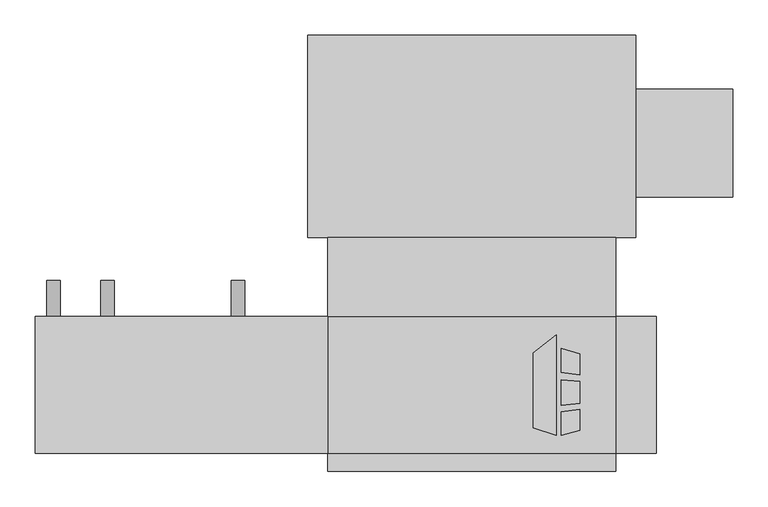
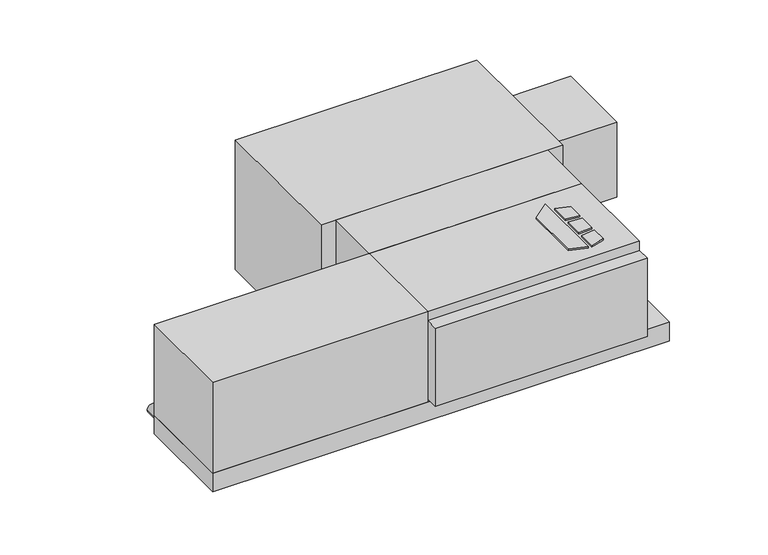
"""IFC4 building model written with IfcOpenShell, lengths in millimetres: proxy geometry, Concealed_Horizontal_Fan_Coil_Unit_With_Plenum_-_CPF_-_IEC_-_4-Pipe_LH : Size 02 - 115v/60Hz/1Ph - 4/1 Coil."""

from ifc_helpers import new_model, si_unit, point, frame, frame_2d, origin, origin_with_axes, place, context, project, spatial, polyline, circle_curve, trimmed, segment, composite_curve, outline, extrude, source, transform, mapped, element, save


def mechanical_equipment_88970b4e(model_context):
    return source(origin(), model_context, "Body", "SweptSolid", [
        extrude(outline(polyline([(239.4019761, -193.0453476), (271.9602728, -167.6080184), (271.9602728, -309.5625), (239.4019761, -299.3429201), (239.4019761, -193.0453476)])), origin_with_axes(), (0.0, 0.0, 1.0), 3.175),
        extrude(outline(polyline([(278.7186058, -220.917352), (278.7186058, -186.4374379), (304.8, -194.6240115), (304.8, -224.1197446), (278.7186058, -220.917352)])), origin_with_axes(), (0.0, 0.0, 1.0), 3.175),
        extrude(outline(polyline([(304.8, -302.5740115), (278.7186058, -309.5625), (278.7186058, -276.3411996), (304.8, -272.7993564), (304.8, -302.5740115)])), origin_with_axes(), (0.0, 0.0, 1.0), 3.175),
        extrude(outline(polyline([(304.8, -233.2013277), (304.8, -264.451483), (278.7186058, -267.192748), (278.7186058, -231.3350378), (304.8, -233.2013277)])), origin_with_axes(), (0.0, 0.0, 1.0), 3.175),
        extrude(outline(polyline([(-50.8, -30.1625), (355.6, -30.1625), (355.6, -141.2875), (-50.8, -141.2875), (-50.8, -30.1625)])), frame((0.0, 0.0, -184.15), z_axis=(0.0, 0.0, 1.0), x_axis=(1.0, 0.0, 0.0)), (0.0, 0.0, 1.0), 184.15),
        extrude(outline(polyline([(-463.55, -334.9625), (-463.55, -141.2875), (-50.8, -141.2875), (-50.8, -334.9625), (-463.55, -334.9625)])), frame((0.0, 0.0, -184.15), z_axis=(0.0, 0.0, 1.0), x_axis=(1.0, 0.0, 0.0)), (0.0, 0.0, 1.0), 184.15),
        extrude(outline(polyline([(412.75, -141.2875), (412.75, -334.9625), (-463.55, -334.9625), (-463.55, -141.2875), (412.75, -141.2875)])), frame((0.0, 0.0, -222.25), z_axis=(0.0, 0.0, 1.0), x_axis=(1.0, 0.0, 0.0)), (0.0, 0.0, 1.0), 38.1),
        extrude(outline(composite_curve([segment(trimmed(circle_curve(frame_2d((-158.75, -361.95)), 9.525), [point((-158.75, -352.425))], [point((-158.75, -371.475))], False, "CARTESIAN"), True, "CONTINUOUS"), segment(trimmed(circle_curve(frame_2d((-158.75, -361.95)), 9.525), [point((-158.75, -371.475))], [point((-158.75, -352.425))], False, "CARTESIAN"), True, "CONTINUOUS")], self_intersect=False)), frame((0.0, -141.2875, 0.0), z_axis=(0.0, 1.0, 0.0), x_axis=(0.0, 0.0, 1.0)), (0.0, 0.0, 1.0), 50.8),
        extrude(outline(composite_curve([segment(trimmed(circle_curve(frame_2d((-69.85, -361.95)), 9.525), [point((-69.85, -352.425))], [point((-69.85, -371.475))], False, "CARTESIAN"), True, "CONTINUOUS"), segment(trimmed(circle_curve(frame_2d((-69.85, -361.95)), 9.525), [point((-69.85, -371.475))], [point((-69.85, -352.425))], False, "CARTESIAN"), True, "CONTINUOUS")], self_intersect=False)), frame((0.0, -141.2875, 0.0), z_axis=(0.0, 1.0, 0.0), x_axis=(0.0, 0.0, 1.0)), (0.0, 0.0, 1.0), 50.8),
        extrude(outline(composite_curve([segment(trimmed(circle_curve(frame_2d((-69.85, -177.8)), 9.525), [point((-69.85, -168.275))], [point((-69.85, -187.325))], False, "CARTESIAN"), True, "CONTINUOUS"), segment(trimmed(circle_curve(frame_2d((-69.85, -177.8)), 9.525), [point((-69.85, -187.325))], [point((-69.85, -168.275))], False, "CARTESIAN"), True, "CONTINUOUS")], self_intersect=False)), frame((0.0, -141.2875, 0.0), z_axis=(0.0, 1.0, 0.0), x_axis=(0.0, 0.0, 1.0)), (0.0, 0.0, 1.0), 50.8),
        extrude(outline(composite_curve([segment(trimmed(circle_curve(frame_2d((-158.75, -177.8)), 9.525), [point((-158.75, -168.275))], [point((-158.75, -187.325))], False, "CARTESIAN"), True, "CONTINUOUS"), segment(trimmed(circle_curve(frame_2d((-158.75, -177.8)), 9.525), [point((-158.75, -187.325))], [point((-158.75, -168.275))], False, "CARTESIAN"), True, "CONTINUOUS")], self_intersect=False)), frame((0.0, -141.2875, 0.0), z_axis=(0.0, 1.0, 0.0), x_axis=(0.0, 0.0, 1.0)), (0.0, 0.0, 1.0), 50.8),
        extrude(outline(composite_curve([segment(trimmed(circle_curve(frame_2d((-209.55, -438.15)), 9.525), [point((-209.55, -447.675))], [point((-209.55, -428.625))], False, "CARTESIAN"), True, "CONTINUOUS"), segment(trimmed(circle_curve(frame_2d((-209.55, -438.15)), 9.525), [point((-209.55, -428.625))], [point((-209.55, -447.675))], False, "CARTESIAN"), True, "CONTINUOUS")], self_intersect=False)), frame((0.0, -141.2875, 0.0), z_axis=(0.0, 1.0, 0.0), x_axis=(0.0, 0.0, 1.0)), (0.0, 0.0, 1.0), 50.8),
        extrude(outline(polyline([(355.6, -334.9625), (355.6, -360.3625), (-50.8, -360.3625), (-50.8, -334.9625), (355.6, -334.9625)])), frame((0.0, 0.0, -177.8), z_axis=(0.0, 0.0, 1.0), x_axis=(1.0, 0.0, 0.0)), (0.0, 0.0, 1.0), 158.75),
        extrude(outline(polyline([(355.6, -334.9625), (-50.8, -334.9625), (-50.8, -141.2875), (355.6, -141.2875), (355.6, -334.9625)])), frame((0.0, 0.0, -184.15), z_axis=(0.0, 0.0, 1.0), x_axis=(1.0, 0.0, 0.0)), (0.0, 0.0, 1.0), 184.15),
        extrude(outline(polyline([(384.175, 26.9875), (384.175, 179.3875), (520.7, 179.3875), (520.7, 26.9875), (384.175, 26.9875)])), frame((0.0, 0.0, -187.325), z_axis=(0.0, 0.0, 1.0), x_axis=(1.0, 0.0, 0.0)), (0.0, 0.0, 1.0), 152.4),
        extrude(outline(polyline([(-79.375, 255.5875), (384.175, 255.5875), (384.175, -30.1625), (-79.375, -30.1625), (-79.375, 255.5875)])), frame((0.0, 0.0, -263.525), z_axis=(0.0, 0.0, 1.0), x_axis=(1.0, 0.0, 0.0)), (0.0, 0.0, 1.0), 263.525),
    ])


if __name__ == "__main__":
    model = new_model("IFC4")
    model_context = context("Model", 3, world=origin())
    ifc_project = project(units=[si_unit("LENGTHUNIT", "METRE", prefix="MILLI")], contexts=[model_context])
    site = spatial("IfcSite", under=ifc_project)
    building = spatial("IfcBuilding", under=site)
    placement = place(None, origin())
    mechanical_equipment_shape = mechanical_equipment_88970b4e(model_context)
    element("IfcBuildingElementProxy", 1, Name="Concealed_Horizontal_Fan_Coil_Unit_With_Plenum_-_CPF_-_IEC_-_4-Pipe_LH : Size 02 - 115v/60Hz/1Ph - 4/1 Coil", ObjectType="Concealed_Horizontal_Fan_Coil_Unit_With_Plenum_-_CPF_-_IEC_-_4-Pipe_LH : Size 02 - 115v/60Hz/1Ph - 4/1 Coil", at=placement, inside=building, context=model_context, shape_type="MappedRepresentation", body=[
        mapped(mechanical_equipment_shape, transform((0.0, 0.0, 0.0), x_axis=(1.0, 0.0, 0.0), y_axis=(0.0, 1.0, 0.0), z_axis=(0.0, 0.0, 1.0))),
    ])
    save(model, "model.ifc")
